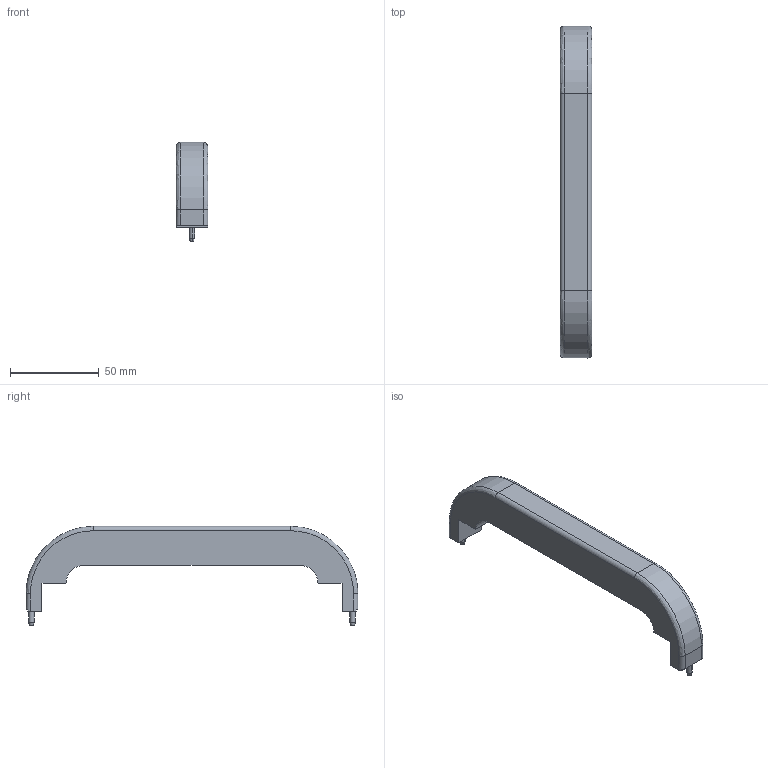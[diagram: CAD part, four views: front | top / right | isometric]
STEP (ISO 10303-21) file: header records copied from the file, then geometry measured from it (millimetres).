
FILE_DESCRIPTION (( 'STEP AP203' ), '1' );
FILE_NAME ('Geotech 0108HAK160 Handgriff Abdeckkappe 8.STEP', '2023-04-13T13:36:43', ( 'Windows-Benutzer' ), ( '' ), 'SwSTEP 2.0', 'SolidWorks 2022', '' );
FILE_SCHEMA (( 'CONFIG_CONTROL_DESIGN' ));
Length unit declared in the file: millimetre
Products named in the file (1): Geotech 0108HAK160 Handgriff Abdeckkappe 8
Bounding box: 18 x 187 x 56 mm (x, y, z)
Surface area: 16795.6 mm2 (no closed solid volume)
Topology: 0 solids, 1 shells, 40 faces, 96 edges, 60 vertices
Faces by surface type: plane 18, cylinder 14, cone 4, bspline 4
Entity records: 1501 total; most frequent: CARTESIAN_POINT 485, DIRECTION 202, ORIENTED_EDGE 192, EDGE_CURVE 96, AXIS2_PLACEMENT_3D 73, VERTEX_POINT 60, LINE 56, VECTOR 56
